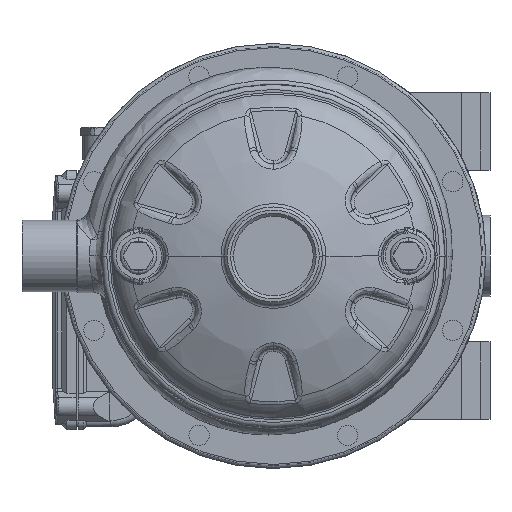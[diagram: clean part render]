
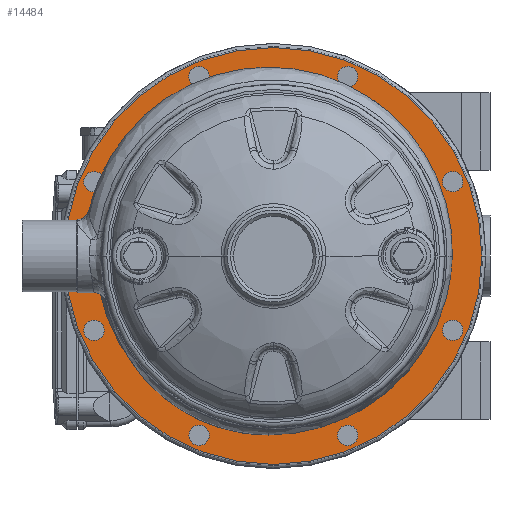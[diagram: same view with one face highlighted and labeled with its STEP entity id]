
A CAD part, left-side view. The second image highlights one B-rep face of the part: STEP entity #14484.
In plain terms, the highlighted planar face has unit normal (-1, 0, 0).
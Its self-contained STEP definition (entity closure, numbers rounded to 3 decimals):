
#5942=CARTESIAN_POINT('',(33.5,0.,
0.));
#5943=DIRECTION('',(1.,0.,0.));
#5944=DIRECTION('',(0.,-1.,0.));
#5945=AXIS2_PLACEMENT_3D('',#5942,#5943,#5944);
#5950=CARTESIAN_POINT('',(33.5,0.,
0.));
#5951=DIRECTION('',(1.,0.,0.));
#5952=DIRECTION('',(0.,1.,0.));
#5953=AXIS2_PLACEMENT_3D('',#5950,#5951,#5952);
#5958=CARTESIAN_POINT('',(33.5,0.,0.));
#5959=DIRECTION('',(-1.,0.,0.));
#5960=DIRECTION('',(0.,1.,0.));
#5961=AXIS2_PLACEMENT_3D('',#5958,#5959,#5960);
#5966=CARTESIAN_POINT('',(33.5,0.,0.));
#5967=DIRECTION('',(-1.,0.,0.));
#5968=DIRECTION('',(0.,-1.,0.));
#5969=AXIS2_PLACEMENT_3D('',#5966,#5967,#5968);
#5974=CARTESIAN_POINT('',(33.5,87.769,36.355));
#5975=DIRECTION('',(-1.,0.,0.));
#5976=DIRECTION('',(0.,0.,1.));
#5977=AXIS2_PLACEMENT_3D('',#5974,#5975,#5976);
#5982=CARTESIAN_POINT('',(33.5,87.769,36.355));
#5983=DIRECTION('',(-1.,0.,0.));
#5984=DIRECTION('',(0.,0.,-1.));
#5985=AXIS2_PLACEMENT_3D('',#5982,#5983,#5984);
#5990=CARTESIAN_POINT('',(33.5,36.355,87.769));
#5991=DIRECTION('',(-1.,0.,0.));
#5992=DIRECTION('',(0.,-0.707,0.707));
#5993=AXIS2_PLACEMENT_3D('',#5990,#5991,#5992);
#5998=CARTESIAN_POINT('',(33.5,36.355,87.769));
#5999=DIRECTION('',(-1.,0.,0.));
#6000=DIRECTION('',(0.,0.707,-0.707));
#6001=AXIS2_PLACEMENT_3D('',#5998,#5999,#6000);
#6006=CARTESIAN_POINT('',(33.5,-36.355,87.769));
#6007=DIRECTION('',(-1.,0.,0.));
#6008=DIRECTION('',(0.,-1.,0.));
#6009=AXIS2_PLACEMENT_3D('',#6006,#6007,#6008);
#6014=CARTESIAN_POINT('',(33.5,-36.355,87.769));
#6015=DIRECTION('',(-1.,0.,0.));
#6016=DIRECTION('',(0.,1.,0.));
#6017=AXIS2_PLACEMENT_3D('',#6014,#6015,#6016);
#6022=CARTESIAN_POINT('',(33.5,-87.769,36.355));
#6023=DIRECTION('',(-1.,0.,0.));
#6024=DIRECTION('',(0.,-0.707,-0.707));
#6025=AXIS2_PLACEMENT_3D('',#6022,#6023,#6024);
#6030=CARTESIAN_POINT('',(33.5,-87.769,36.355));
#6031=DIRECTION('',(-1.,0.,0.));
#6032=DIRECTION('',(0.,0.707,0.707));
#6033=AXIS2_PLACEMENT_3D('',#6030,#6031,#6032);
#6038=CARTESIAN_POINT('',(33.5,-87.769,-36.355));
#6039=DIRECTION('',(-1.,0.,0.));
#6040=DIRECTION('',(0.,0.,-1.));
#6041=AXIS2_PLACEMENT_3D('',#6038,#6039,#6040);
#6046=CARTESIAN_POINT('',(33.5,-87.769,-36.355));
#6047=DIRECTION('',(-1.,0.,0.));
#6048=DIRECTION('',(0.,0.,1.));
#6049=AXIS2_PLACEMENT_3D('',#6046,#6047,#6048);
#6054=CARTESIAN_POINT('',(33.5,-36.355,-87.769));
#6055=DIRECTION('',(-1.,0.,0.));
#6056=DIRECTION('',(0.,0.707,-0.707));
#6057=AXIS2_PLACEMENT_3D('',#6054,#6055,#6056);
#6062=CARTESIAN_POINT('',(33.5,-36.355,-87.769));
#6063=DIRECTION('',(-1.,0.,0.));
#6064=DIRECTION('',(0.,-0.707,0.707));
#6065=AXIS2_PLACEMENT_3D('',#6062,#6063,#6064);
#6070=CARTESIAN_POINT('',(33.5,36.355,-87.769));
#6071=DIRECTION('',(-1.,0.,0.));
#6072=DIRECTION('',(0.,1.,0.));
#6073=AXIS2_PLACEMENT_3D('',#6070,#6071,#6072);
#6078=CARTESIAN_POINT('',(33.5,36.355,-87.769));
#6079=DIRECTION('',(-1.,0.,0.));
#6080=DIRECTION('',(0.,-1.,0.));
#6081=AXIS2_PLACEMENT_3D('',#6078,#6079,#6080);
#6086=CARTESIAN_POINT('',(33.5,87.769,-36.355));
#6087=DIRECTION('',(-1.,0.,0.));
#6088=DIRECTION('',(0.,0.707,0.707));
#6089=AXIS2_PLACEMENT_3D('',#6086,#6087,#6088);
#6094=CARTESIAN_POINT('',(33.5,87.769,-36.355));
#6095=DIRECTION('',(-1.,0.,0.));
#6096=DIRECTION('',(0.,-0.707,-0.707));
#6097=AXIS2_PLACEMENT_3D('',#6094,#6095,#6096);
#13716=CARTESIAN_POINT('',(33.5,-86.8,
0.));
#13717=CARTESIAN_POINT('',(33.5,86.8,
0.));
#13718=VERTEX_POINT('',#13716);
#13719=VERTEX_POINT('',#13717);
#13720=CARTESIAN_POINT('',(33.5,102.,0.));
#13721=CARTESIAN_POINT('',(33.5,-102.,0.));
#13722=VERTEX_POINT('',#13720);
#13723=VERTEX_POINT('',#13721);
#13740=CARTESIAN_POINT('',(33.5,87.769,41.355));
#13741=CARTESIAN_POINT('',(33.5,87.769,31.355));
#13742=VERTEX_POINT('',#13740);
#13743=VERTEX_POINT('',#13741);
#13772=CARTESIAN_POINT('',(33.5,32.819,91.304));
#13773=VERTEX_POINT('',#13772);
#13774=CARTESIAN_POINT('',(33.5,39.89,84.233));
#13775=VERTEX_POINT('',#13774);
#13788=CARTESIAN_POINT('',(33.5,-41.355,87.769));
#13789=VERTEX_POINT('',#13788);
#13790=CARTESIAN_POINT('',(33.5,-31.355,87.769));
#13791=VERTEX_POINT('',#13790);
#13804=CARTESIAN_POINT('',(33.5,-91.304,32.819));
#13805=VERTEX_POINT('',#13804);
#13806=CARTESIAN_POINT('',(33.5,-84.233,39.89));
#13807=VERTEX_POINT('',#13806);
#13820=CARTESIAN_POINT('',(33.5,-87.769,-41.355));
#13821=VERTEX_POINT('',#13820);
#13822=CARTESIAN_POINT('',(33.5,-87.769,-31.355));
#13823=VERTEX_POINT('',#13822);
#13836=CARTESIAN_POINT('',(33.5,-32.819,-91.304));
#13837=VERTEX_POINT('',#13836);
#13838=CARTESIAN_POINT('',(33.5,-39.89,-84.233));
#13839=VERTEX_POINT('',#13838);
#13852=CARTESIAN_POINT('',(33.5,41.355,-87.769));
#13853=VERTEX_POINT('',#13852);
#13854=CARTESIAN_POINT('',(33.5,31.355,-87.769));
#13855=VERTEX_POINT('',#13854);
#13868=CARTESIAN_POINT('',(33.5,91.304,-32.819));
#13869=VERTEX_POINT('',#13868);
#13870=CARTESIAN_POINT('',(33.5,84.233,-39.89));
#13871=VERTEX_POINT('',#13870);
#14420=CARTESIAN_POINT('',(33.5,0.,0.));
#14421=DIRECTION('',(1.,0.,0.));
#14422=DIRECTION('',(0.,-1.,0.));
#14423=AXIS2_PLACEMENT_3D('',#14420,#14421,#14422);
#14424=PLANE('',#14423);
#14426=ORIENTED_EDGE('',*,*,#14425,.F.);
#14427=ORIENTED_EDGE('',*,*,#14410,.F.);
#14428=EDGE_LOOP('',(#14426,#14427));
#14429=FACE_OUTER_BOUND('',#14428,.F.);
#14431=ORIENTED_EDGE('',*,*,#14430,.F.);
#14433=ORIENTED_EDGE('',*,*,#14432,.F.);
#14434=EDGE_LOOP('',(#14431,#14433));
#14435=FACE_BOUND('',#14434,.F.);
#14437=ORIENTED_EDGE('',*,*,#14436,.T.);
#14439=ORIENTED_EDGE('',*,*,#14438,.T.);
#14440=EDGE_LOOP('',(#14437,#14439));
#14441=FACE_BOUND('',#14440,.F.);
#14443=ORIENTED_EDGE('',*,*,#14442,.T.);
#14445=ORIENTED_EDGE('',*,*,#14444,.T.);
#14446=EDGE_LOOP('',(#14443,#14445));
#14447=FACE_BOUND('',#14446,.F.);
#14449=ORIENTED_EDGE('',*,*,#14448,.T.);
#14451=ORIENTED_EDGE('',*,*,#14450,.T.);
#14452=EDGE_LOOP('',(#14449,#14451));
#14453=FACE_BOUND('',#14452,.F.);
#14455=ORIENTED_EDGE('',*,*,#14454,.T.);
#14457=ORIENTED_EDGE('',*,*,#14456,.T.);
#14458=EDGE_LOOP('',(#14455,#14457));
#14459=FACE_BOUND('',#14458,.F.);
#14461=ORIENTED_EDGE('',*,*,#14460,.T.);
#14463=ORIENTED_EDGE('',*,*,#14462,.T.);
#14464=EDGE_LOOP('',(#14461,#14463));
#14465=FACE_BOUND('',#14464,.F.);
#14467=ORIENTED_EDGE('',*,*,#14466,.T.);
#14469=ORIENTED_EDGE('',*,*,#14468,.T.);
#14470=EDGE_LOOP('',(#14467,#14469));
#14471=FACE_BOUND('',#14470,.F.);
#14473=ORIENTED_EDGE('',*,*,#14472,.T.);
#14475=ORIENTED_EDGE('',*,*,#14474,.T.);
#14476=EDGE_LOOP('',(#14473,#14475));
#14477=FACE_BOUND('',#14476,.F.);
#14479=ORIENTED_EDGE('',*,*,#14478,.T.);
#14481=ORIENTED_EDGE('',*,*,#14480,.T.);
#14482=EDGE_LOOP('',(#14479,#14481));
#14483=FACE_BOUND('',#14482,.F.);
#5946=CIRCLE('',#5945,86.8);
#5954=CIRCLE('',#5953,86.8);
#5962=CIRCLE('',#5961,102.);
#5970=CIRCLE('',#5969,102.);
#5978=CIRCLE('',#5977,5.);
#5986=CIRCLE('',#5985,5.);
#5994=CIRCLE('',#5993,5.);
#6002=CIRCLE('',#6001,5.);
#6010=CIRCLE('',#6009,5.);
#6018=CIRCLE('',#6017,5.);
#6026=CIRCLE('',#6025,5.);
#6034=CIRCLE('',#6033,5.);
#6042=CIRCLE('',#6041,5.);
#6050=CIRCLE('',#6049,5.);
#6058=CIRCLE('',#6057,5.);
#6066=CIRCLE('',#6065,5.);
#6074=CIRCLE('',#6073,5.);
#6082=CIRCLE('',#6081,5.);
#6090=CIRCLE('',#6089,5.);
#6098=CIRCLE('',#6097,5.);
#14410=EDGE_CURVE('',#13723,#13722,#5970,.T.);
#14425=EDGE_CURVE('',#13722,#13723,#5962,.T.);
#14430=EDGE_CURVE('',#13718,#13719,#5946,.T.);
#14432=EDGE_CURVE('',#13719,#13718,#5954,.T.);
#14436=EDGE_CURVE('',#13742,#13743,#5978,.T.);
#14438=EDGE_CURVE('',#13743,#13742,#5986,.T.);
#14442=EDGE_CURVE('',#13773,#13775,#5994,.T.);
#14444=EDGE_CURVE('',#13775,#13773,#6002,.T.);
#14448=EDGE_CURVE('',#13789,#13791,#6010,.T.);
#14450=EDGE_CURVE('',#13791,#13789,#6018,.T.);
#14454=EDGE_CURVE('',#13805,#13807,#6026,.T.);
#14456=EDGE_CURVE('',#13807,#13805,#6034,.T.);
#14460=EDGE_CURVE('',#13821,#13823,#6042,.T.);
#14462=EDGE_CURVE('',#13823,#13821,#6050,.T.);
#14466=EDGE_CURVE('',#13837,#13839,#6058,.T.);
#14468=EDGE_CURVE('',#13839,#13837,#6066,.T.);
#14472=EDGE_CURVE('',#13853,#13855,#6074,.T.);
#14474=EDGE_CURVE('',#13855,#13853,#6082,.T.);
#14478=EDGE_CURVE('',#13869,#13871,#6090,.T.);
#14480=EDGE_CURVE('',#13871,#13869,#6098,.T.);
#14484=ADVANCED_FACE('',(#14429,#14435,#14441,#14447,#14453,#14459,#14465,
#14471,#14477,#14483),#14424,.F.);
